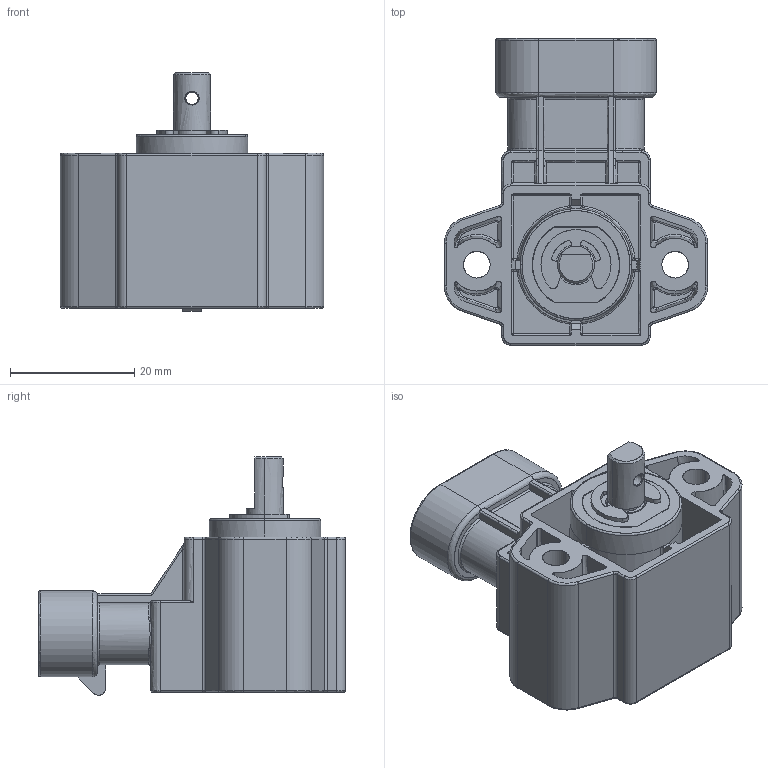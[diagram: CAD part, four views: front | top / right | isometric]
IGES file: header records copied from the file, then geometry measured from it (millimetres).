
Start section: SolidWorks IGES file using analytic representation for surfaces
Global section: file name: \\srv4gefran\dir-cat\Disegni Catalogo\Mobile\GR3P\GR3P 32\3D\Solidworks 2024\GR3PA S3H1MS xxx xxxx X0.IGS; native system: SolidWorks 2024; preprocessor: SolidWorks 2024; author: Loda-w1; date: 241219.154840; units: millimetre
Bounding box: 42.5 x 49.5 x 38.47 mm (x, y, z)
Surface area: 13070.9 mm2 (no closed solid volume)
Topology: 0 solids, 0 shells, 643 faces, 5525 edges, 5486 vertices
Faces by surface type: bspline 357, revolution 286
